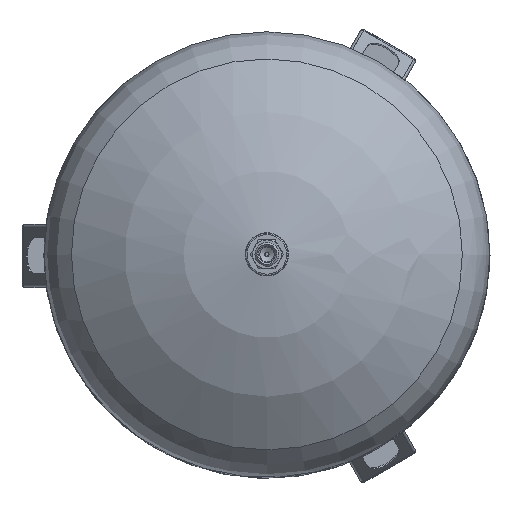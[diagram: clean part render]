
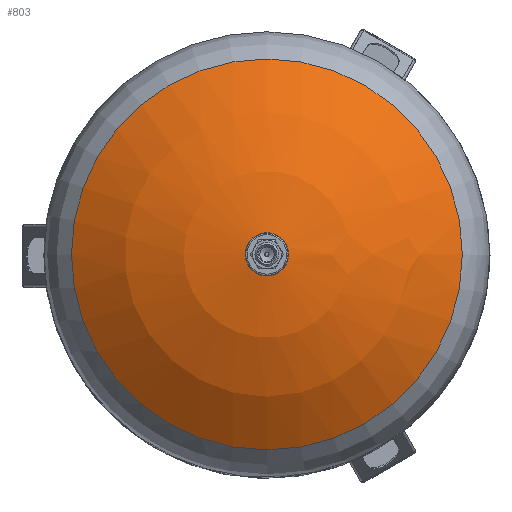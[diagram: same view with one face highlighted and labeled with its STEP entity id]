
A CAD part, top view. The second image highlights one B-rep face of the part: STEP entity #803.
In plain terms, the highlighted spherical face has radius 8890 mm.
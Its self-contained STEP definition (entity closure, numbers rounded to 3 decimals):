
#803=ADVANCED_FACE('',(#4554,#4556),#4558,.T.);
#4554=FACE_BOUND('',#4555,.T.);
#4555=EDGE_LOOP('',(#7678,#7679,#7680));
#4556=FACE_BOUND('',#4557,.T.);
#4557=EDGE_LOOP('',(#7681,#7682,#7683));
#4558=SPHERICAL_SURFACE('',#4559,8890.);
#4559=AXIS2_PLACEMENT_3D('',#4560,#4561,#4562);
#4560=CARTESIAN_POINT('',(0.,0.,2681.84));
#4561=DIRECTION('',(0.,0.,1.));
#4562=DIRECTION('',(1.,0.,0.));
#7678=ORIENTED_EDGE('',*,*,#9669,.T.);
#7679=ORIENTED_EDGE('',*,*,#9670,.T.);
#7680=ORIENTED_EDGE('',*,*,#9671,.T.);
#7681=ORIENTED_EDGE('',*,*,#9549,.T.);
#7682=ORIENTED_EDGE('',*,*,#9548,.T.);
#7683=ORIENTED_EDGE('',*,*,#9547,.T.);
#9547=EDGE_CURVE('',#10735,#10736,#10737,.T.);
#9548=EDGE_CURVE('',#10738,#10735,#10739,.T.);
#9549=EDGE_CURVE('',#10736,#10738,#10740,.T.);
#9669=EDGE_CURVE('',#10943,#10944,#10945,.T.);
#9670=EDGE_CURVE('',#10944,#10946,#10947,.T.);
#9671=EDGE_CURVE('',#10946,#10943,#10948,.T.);
#10735=VERTEX_POINT('',#13855);
#10736=VERTEX_POINT('',#13856);
#10737=CIRCLE('',#13857,596.9);
#10738=VERTEX_POINT('',#13861);
#10739=CIRCLE('',#13862,596.9);
#10740=CIRCLE('',#13866,596.9);
#10943=VERTEX_POINT('',#15442);
#10944=VERTEX_POINT('',#15443);
#10945=CIRCLE('',#15444,5515.093);
#10946=VERTEX_POINT('',#15448);
#10947=CIRCLE('',#15449,5515.093);
#10948=CIRCLE('',#15453,5515.093);
#13855=CARTESIAN_POINT('',(-596.9,0.,11551.779));
#13856=CARTESIAN_POINT('',(596.9,0.,11551.779));
#13857=AXIS2_PLACEMENT_3D('',#13858,#13859,#13860);
#13858=CARTESIAN_POINT('',(0.,0.,11551.779));
#13859=DIRECTION('',(0.,0.,-1.));
#13860=DIRECTION('',(-1.,0.,0.));
#13861=CARTESIAN_POINT('',(0.,-596.9,11551.779));
#13862=AXIS2_PLACEMENT_3D('',#13863,#13864,#13865);
#13863=CARTESIAN_POINT('',(0.,0.,11551.779));
#13864=DIRECTION('',(0.,0.,-1.));
#13865=DIRECTION('',(0.,-1.,0.));
#13866=AXIS2_PLACEMENT_3D('',#13867,#13868,#13869);
#13867=CARTESIAN_POINT('',(0.,0.,11551.779));
#13868=DIRECTION('',(0.,0.,-1.));
#13869=DIRECTION('',(1.,0.,0.));
#15442=CARTESIAN_POINT('',(5515.093,0.,9654.347));
#15443=CARTESIAN_POINT('',(-5515.093,0.,9654.347));
#15444=AXIS2_PLACEMENT_3D('',#15445,#15446,#15447);
#15445=CARTESIAN_POINT('',(0.,0.,9654.347));
#15446=DIRECTION('',(0.,0.,1.));
#15447=DIRECTION('',(1.,0.,0.));
#15448=CARTESIAN_POINT('',(0.,-5515.093,9654.347));
#15449=AXIS2_PLACEMENT_3D('',#15450,#15451,#15452);
#15450=CARTESIAN_POINT('',(0.,0.,9654.347));
#15451=DIRECTION('',(0.,0.,1.));
#15452=DIRECTION('',(-1.,0.,0.));
#15453=AXIS2_PLACEMENT_3D('',#15454,#15455,#15456);
#15454=CARTESIAN_POINT('',(0.,0.,9654.347));
#15455=DIRECTION('',(0.,0.,1.));
#15456=DIRECTION('',(0.,-1.,0.));
